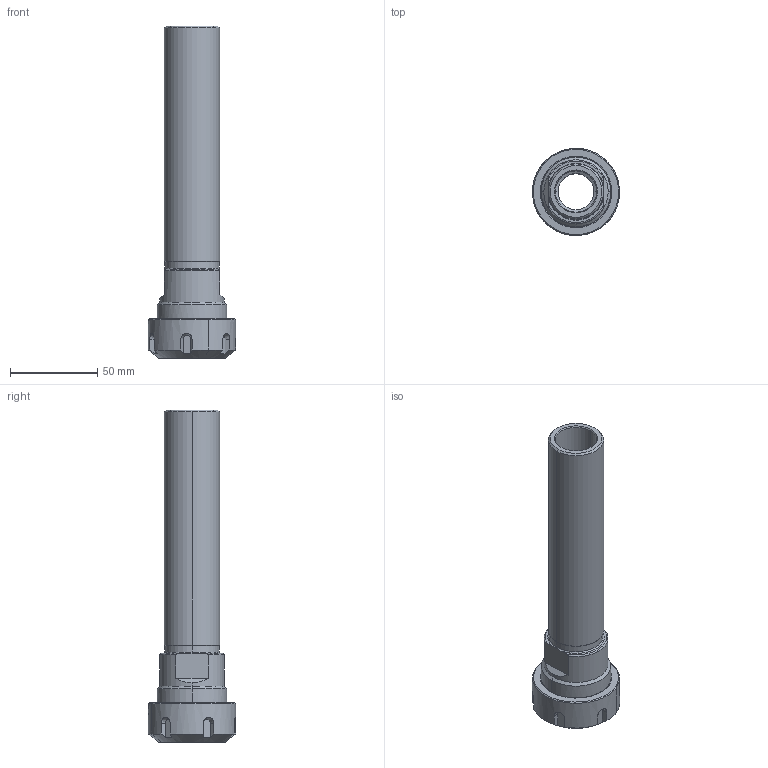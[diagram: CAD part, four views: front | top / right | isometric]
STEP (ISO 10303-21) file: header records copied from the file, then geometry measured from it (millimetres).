
FILE_DESCRIPTION (( 'STEP AP214' ), '1' );
FILE_NAME ('RSSER32750.STEP', '2019-02-05T19:40:48', ( '' ), ( '' ), 'SwSTEP 2.0', 'SolidWorks 2019', '' );
FILE_SCHEMA (( 'AUTOMOTIVE_DESIGN' ));
Length unit declared in the file: inch
Products named in the file (1): RSSER32750
Bounding box: 49.95 x 50 x 190.5 mm (x, y, z)
Volume: 93925.3 mm3; surface area: 39249.2 mm2
Topology: 1 solids, 1 shells, 293 faces, 759 edges, 494 vertices
Faces by surface type: plane 187, bspline 42, cone 32, cylinder 22, torus 10
Entity records: 15354 total; most frequent: CARTESIAN_POINT 4615, ORIENTED_EDGE 1518, DIRECTION 1241, EDGE_CURVE 759, VECTOR 541, LINE 541, VERTEX_POINT 494, AXIS2_PLACEMENT_3D 350
